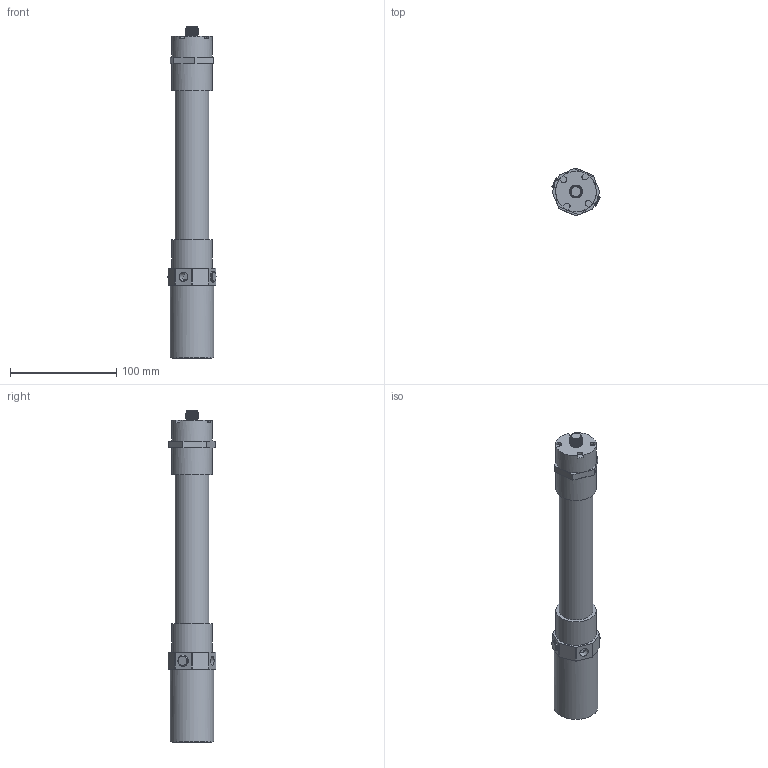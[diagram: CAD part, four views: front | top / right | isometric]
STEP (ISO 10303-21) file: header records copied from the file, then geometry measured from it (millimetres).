
FILE_DESCRIPTION(/* description */ (''),/* implementation_level */ '2;1');
FILE_NAME(/* name */ 'ASSY,VFIA,22MM,CLAMP MOUNT,140MM,S4 (614-49781) STEP FILE - REV C.stp',/* time_stamp */ '2026-01-21T08:35:26-05:00',/* author */ ('ASSY,VFIA,22MM,CLAMP MOUNT,140MM,S4'),/* organization */ ('CenterLine (Windsor) Limited'),/* preprocessor_version */ 'ST-DEVELOPER v20',/* originating_system */ 'Autodesk Inventor 2024',/* authorisation */ '');
FILE_SCHEMA (('AUTOMOTIVE_DESIGN { 1 0 10303 214 3 1 1 }'));
Length unit declared in the file: centimetre
Products named in the file (2): Assembly13; [Primary]_ASSY,VFIA,22MM,CLAMP MOUNT,140MM,S4
Assembly tree (1 placements, depth 2):
  Assembly13
    [Primary]_ASSY,VFIA,22MM,CLAMP MOUNT,140MM,S4
Bounding box: 45.13 x 44.45 x 311.97 mm (x, y, z)
Volume: 313829.2 mm3; surface area: 39735.2 mm2
Topology: 1 solids, 1 shells, 118 faces, 291 edges, 186 vertices
Faces by surface type: plane 66, cylinder 33, bspline 9, cone 8, torus 2
Full cylindrical faces by diameter (mm): 8.731 x2, 10 x1, 10.6 x2, 12 x5, 31.75 x1, 38.1 x3, 41.275 x1
Entity records: 9013 total; most frequent: CARTESIAN_POINT 6154, DIRECTION 584, ORIENTED_EDGE 582, EDGE_CURVE 291, AXIS2_PLACEMENT_3D 218, VERTEX_POINT 185, LINE 148, VECTOR 148
